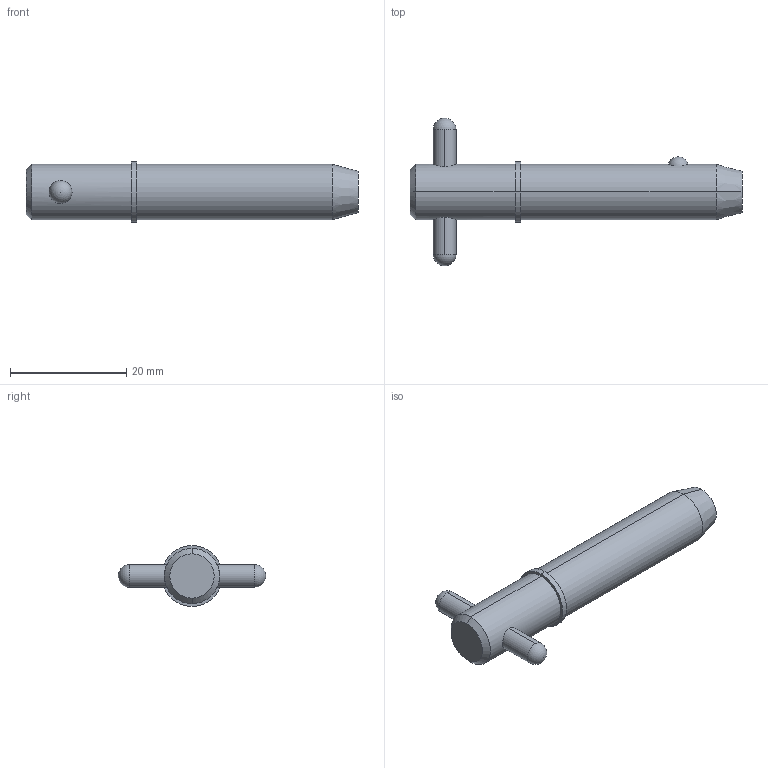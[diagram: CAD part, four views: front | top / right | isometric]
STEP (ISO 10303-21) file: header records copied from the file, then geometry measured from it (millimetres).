
FILE_DESCRIPTION (( 'STEP AP203' ), '1' );
FILE_NAME ('33018.W3710.step', '2024-11-19T17:10:48', ( '' ), ( '' ), 'SwSTEP 2.0', 'SolidWorks 2019', '' );
FILE_SCHEMA (( 'CONFIG_CONTROL_DESIGN' ));
Length unit declared in the file: millimetre
Products named in the file (3): Part1_33018.W3710; Part2_33018.W3710; 33018.W3710
Assembly tree (2 placements, depth 2):
  33018.W3710
    Part1_33018.W3710
    Part2_33018.W3710
Bounding box: 57.15 x 25.4 x 10.48 mm (x, y, z)
Volume: 4195 mm3; surface area: 2235.5 mm2
Topology: 2 solids, 2 shells, 22 faces, 47 edges, 30 vertices
Faces by surface type: cylinder 10, sphere 4, cone 4, plane 4
Entity records: 1023 total; most frequent: CARTESIAN_POINT 266, DIRECTION 110, ORIENTED_EDGE 82, AXIS2_PLACEMENT_3D 48, EDGE_CURVE 41, EDGE_LOOP 27, PERSON_AND_ORGANIZATION 26, VERTEX_POINT 26
